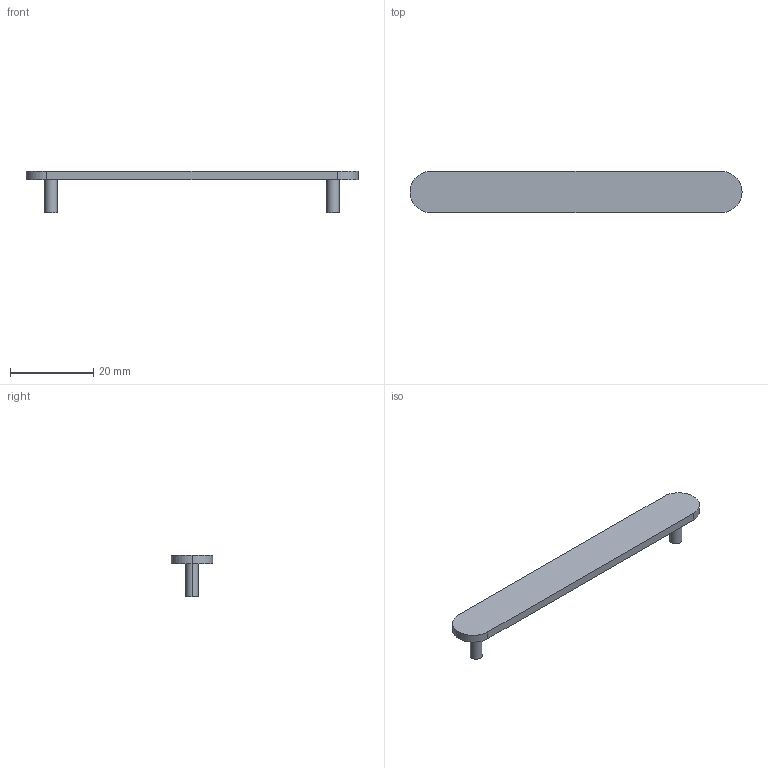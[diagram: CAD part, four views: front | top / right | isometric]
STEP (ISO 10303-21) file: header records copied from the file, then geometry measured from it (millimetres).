
FILE_DESCRIPTION (( 'STEP AP214' ), '1' );
FILE_NAME ('Gabel_Test.STEP', '2025-11-07T13:51:29', ( '' ), ( '' ), 'SwSTEP 2.0', 'SolidWorks 2025', '' );
FILE_SCHEMA (( 'AUTOMOTIVE_DESIGN' ));
Length unit declared in the file: millimetre
Products named in the file (1): Gabel_Test
Bounding box: 80 x 10 x 10 mm (x, y, z)
Volume: 1670.2 mm3; surface area: 2050.7 mm2
Topology: 1 solids, 1 shells, 14 faces, 30 edges, 20 vertices
Faces by surface type: cylinder 8, plane 6
Entity records: 413 total; most frequent: DIRECTION 76, CARTESIAN_POINT 65, ORIENTED_EDGE 60, AXIS2_PLACEMENT_3D 31, EDGE_CURVE 30, VERTEX_POINT 20, CIRCLE 16, EDGE_LOOP 16
